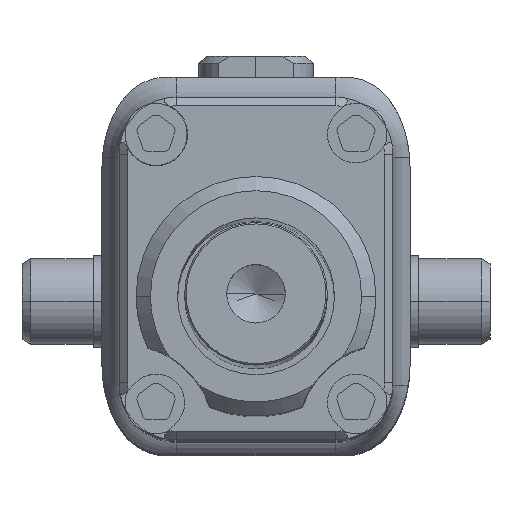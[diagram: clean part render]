
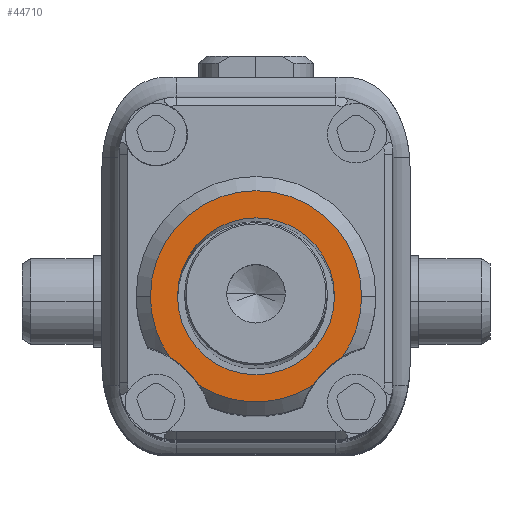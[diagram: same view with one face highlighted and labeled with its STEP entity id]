
A CAD part, top view. The second image highlights one B-rep face of the part: STEP entity #44710.
In plain terms, the highlighted planar face has unit normal (0, 0, 1) as drawn and (0, 0, -1) by its records, which use the part's own axes.
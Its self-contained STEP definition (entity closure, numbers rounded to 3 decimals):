
#1105 = FACE_OUTER_BOUND ( 'NONE', #25150, .T. ) ;
#1656 = ORIENTED_EDGE ( 'NONE', *, *, #16362, .T. ) ;
#2160 = CIRCLE ( 'NONE', #59323, 3.7 ) ;
#2527 = CARTESIAN_POINT ( 'NONE',  ( -4.667, -4.667, -33.5 ) ) ;
#3303 = VERTEX_POINT ( 'NONE', #22712 ) ;
#3722 = EDGE_CURVE ( 'NONE', #55972, #3303, #58636, .T. ) ;
#4721 = DIRECTION ( 'NONE',  ( -1., 0., 0. ) ) ;
#5753 = ORIENTED_EDGE ( 'NONE', *, *, #25717, .F. ) ;
#6740 = EDGE_LOOP ( 'NONE', ( #53734, #28725 ) ) ;
#9054 = DIRECTION ( 'NONE',  ( 0., 0., -1. ) ) ;
#9133 = DIRECTION ( 'NONE',  ( 0., 0., -1. ) ) ;
#9412 = DIRECTION ( 'NONE',  ( 0., 0., -1. ) ) ;
#9453 = DIRECTION ( 'NONE',  ( 0., 0., -1. ) ) ;
#12438 = DIRECTION ( 'NONE',  ( 0., 0., 1. ) ) ;
#12779 = DIRECTION ( 'NONE',  ( -1., 0., 0. ) ) ;
#12984 = CIRCLE ( 'NONE', #31058, 2.75 ) ;
#13369 = CARTESIAN_POINT ( 'NONE',  ( 4.667, -4.667, -33.5 ) ) ;
#13628 = ORIENTED_EDGE ( 'NONE', *, *, #62083, .T. ) ;
#14106 = AXIS2_PLACEMENT_3D ( 'NONE', #2527, #59695, #35531 ) ;
#16362 = EDGE_CURVE ( 'NONE', #43204, #44943, #17503, .T. ) ;
#16928 = CARTESIAN_POINT ( 'NONE',  ( 3.7, 0.2, -33.5 ) ) ;
#17503 = CIRCLE ( 'NONE', #43623, 3.7 ) ;
#18141 = VERTEX_POINT ( 'NONE', #35096 ) ;
#18768 = DIRECTION ( 'NONE',  ( -1., 0., 0. ) ) ;
#20261 = FACE_BOUND ( 'NONE', #6740, .T. ) ;
#20577 = AXIS2_PLACEMENT_3D ( 'NONE', #25343, #9133, #57467 ) ;
#20907 = EDGE_CURVE ( 'NONE', #3303, #55972, #12984, .T. ) ;
#21690 = AXIS2_PLACEMENT_3D ( 'NONE', #46613, #50389, #36586 ) ;
#21898 = DIRECTION ( 'NONE',  ( 0., 0., -1. ) ) ;
#22167 = DIRECTION ( 'NONE',  ( -1., 0., 0. ) ) ;
#22247 = VERTEX_POINT ( 'NONE', #24099 ) ;
#22712 = CARTESIAN_POINT ( 'NONE',  ( -2.75, 0.2, -33.5 ) ) ;
#24099 = CARTESIAN_POINT ( 'NONE',  ( 3.038, -1.912, -33.5 ) ) ;
#25150 = EDGE_LOOP ( 'NONE', ( #13628, #30635, #5753, #31557, #1656, #34525 ) ) ;
#25343 = CARTESIAN_POINT ( 'NONE',  ( 0., 0.2, -33.5 ) ) ;
#25717 = EDGE_CURVE ( 'NONE', #53732, #35070, #54236, .T. ) ;
#27481 = CARTESIAN_POINT ( 'NONE',  ( 0., 0.2, -33.5 ) ) ;
#28400 = AXIS2_PLACEMENT_3D ( 'NONE', #27481, #57594, #61681 ) ;
#28725 = ORIENTED_EDGE ( 'NONE', *, *, #20907, .F. ) ;
#30524 = CARTESIAN_POINT ( 'NONE',  ( -3.7, 0.2, -33.5 ) ) ;
#30635 = ORIENTED_EDGE ( 'NONE', *, *, #42179, .T. ) ;
#31058 = AXIS2_PLACEMENT_3D ( 'NONE', #58354, #9412, #34193 ) ;
#31557 = ORIENTED_EDGE ( 'NONE', *, *, #37482, .T. ) ;
#34025 = CARTESIAN_POINT ( 'NONE',  ( 2.75, 0.2, -33.5 ) ) ;
#34193 = DIRECTION ( 'NONE',  ( -1., 0., 0. ) ) ;
#34525 = ORIENTED_EDGE ( 'NONE', *, *, #51793, .T. ) ;
#35070 = VERTEX_POINT ( 'NONE', #42769 ) ;
#35096 = CARTESIAN_POINT ( 'NONE',  ( 1.983, -2.924, -33.5 ) ) ;
#35531 = DIRECTION ( 'NONE',  ( -1., 0., 0. ) ) ;
#36370 = AXIS2_PLACEMENT_3D ( 'NONE', #13369, #12438, #22167 ) ;
#36586 = DIRECTION ( 'NONE',  ( -1., 0., 0. ) ) ;
#36602 = AXIS2_PLACEMENT_3D ( 'NONE', #57782, #9453, #4721 ) ;
#36643 = CIRCLE ( 'NONE', #20577, 3.7 ) ;
#37482 = EDGE_CURVE ( 'NONE', #53732, #43204, #45472, .T. ) ;
#42179 = EDGE_CURVE ( 'NONE', #18141, #35070, #36643, .T. ) ;
#42769 = CARTESIAN_POINT ( 'NONE',  ( -1.983, -2.924, -33.5 ) ) ;
#43204 = VERTEX_POINT ( 'NONE', #30524 ) ;
#43623 = AXIS2_PLACEMENT_3D ( 'NONE', #61782, #9054, #18768 ) ;
#44710 = ADVANCED_FACE ( 'NONE', ( #1105, #20261 ), #58579, .T. ) ;
#44943 = VERTEX_POINT ( 'NONE', #16928 ) ;
#45472 = CIRCLE ( 'NONE', #28400, 3.7 ) ;
#46083 = CARTESIAN_POINT ( 'NONE',  ( 0., 0.2, -33.5 ) ) ;
#46613 = CARTESIAN_POINT ( 'NONE',  ( 0., 0.2, -33.5 ) ) ;
#50389 = DIRECTION ( 'NONE',  ( 0., 0., -1. ) ) ;
#51793 = EDGE_CURVE ( 'NONE', #44943, #22247, #2160, .T. ) ;
#53452 = CIRCLE ( 'NONE', #36370, 3.2 ) ;
#53732 = VERTEX_POINT ( 'NONE', #54755 ) ;
#53734 = ORIENTED_EDGE ( 'NONE', *, *, #3722, .F. ) ;
#54236 = CIRCLE ( 'NONE', #14106, 3.2 ) ;
#54755 = CARTESIAN_POINT ( 'NONE',  ( -3.038, -1.912, -33.5 ) ) ;
#55972 = VERTEX_POINT ( 'NONE', #34025 ) ;
#57467 = DIRECTION ( 'NONE',  ( -1., 0., 0. ) ) ;
#57594 = DIRECTION ( 'NONE',  ( 0., 0., -1. ) ) ;
#57782 = CARTESIAN_POINT ( 'NONE',  ( 0., 0.2, -33.5 ) ) ;
#58354 = CARTESIAN_POINT ( 'NONE',  ( 0., 0.2, -33.5 ) ) ;
#58579 = PLANE ( 'NONE',  #21690 ) ;
#58636 = CIRCLE ( 'NONE', #36602, 2.75 ) ;
#59323 = AXIS2_PLACEMENT_3D ( 'NONE', #46083, #21898, #12779 ) ;
#59695 = DIRECTION ( 'NONE',  ( 0., 0., -1. ) ) ;
#61681 = DIRECTION ( 'NONE',  ( -1., 0., 0. ) ) ;
#61782 = CARTESIAN_POINT ( 'NONE',  ( 0., 0.2, -33.5 ) ) ;
#62083 = EDGE_CURVE ( 'NONE', #22247, #18141, #53452, .T. ) ;
